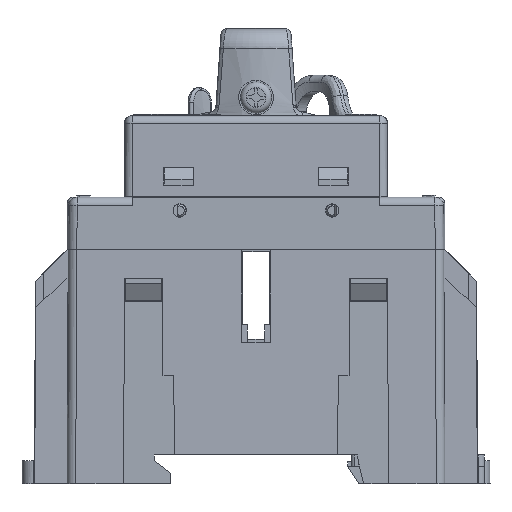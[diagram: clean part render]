
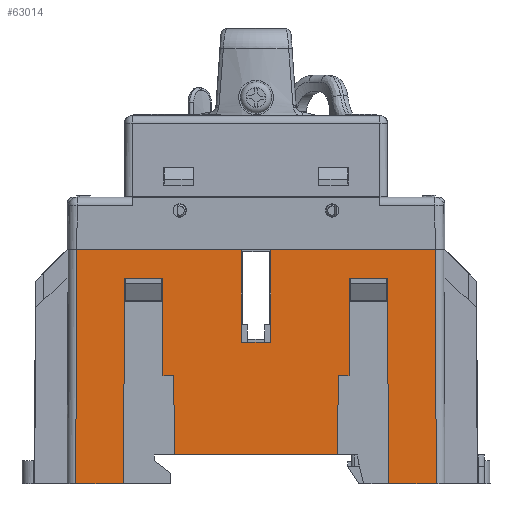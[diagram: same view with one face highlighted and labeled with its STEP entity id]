
A CAD part, left-side view. The second image highlights one B-rep face of the part: STEP entity #63014.
In plain terms, the highlighted planar face has unit normal (-1, 0, 0.005).
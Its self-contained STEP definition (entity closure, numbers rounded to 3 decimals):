
#28095=CARTESIAN_POINT('',(-18.186,-14.147,-1.7));
#28096=VERTEX_POINT('',#28095);
#28103=CARTESIAN_POINT('',(-18.186,14.147,-1.7));
#28104=VERTEX_POINT('',#28103);
#28105=CARTESIAN_POINT('',(-18.186,-14.147,-1.7));
#28106=DIRECTION('',(0.,1.0,0.0));
#28107=VECTOR('',#28106,28.295);
#28108=LINE('',#28105,#28107);
#28109=EDGE_CURVE('',#28096,#28104,#28108,.T.);
#34275=CARTESIAN_POINT('',(-18.026,-16.35,28.9));
#34276=VERTEX_POINT('',#34275);
#34277=CARTESIAN_POINT('',(-18.026,-22.6,28.9));
#34278=VERTEX_POINT('',#34277);
#34279=CARTESIAN_POINT('',(-18.026,-22.6,28.9));
#34280=DIRECTION('',(0.,1.0,0.));
#34281=VECTOR('',#34280,6.25);
#34282=LINE('',#34279,#34281);
#34283=EDGE_CURVE('',#34276,#34278,#34282,.F.);
#34346=CARTESIAN_POINT('',(-18.026,22.6,28.9));
#34347=VERTEX_POINT('',#34346);
#34348=CARTESIAN_POINT('',(-18.026,16.35,28.9));
#34349=VERTEX_POINT('',#34348);
#34350=CARTESIAN_POINT('',(-18.026,16.35,28.9));
#34351=DIRECTION('',(0.,1.0,0.));
#34352=VECTOR('',#34351,6.25);
#34353=LINE('',#34350,#34352);
#34354=EDGE_CURVE('',#34347,#34349,#34353,.F.);
#51665=CARTESIAN_POINT('',(-18.026,-16.2,28.9));
#51666=VERTEX_POINT('',#51665);
#51667=CARTESIAN_POINT('',(-18.026,-16.35,28.9));
#51668=DIRECTION('',(0.,1.0,0.));
#51669=VECTOR('',#51668,0.15);
#51670=LINE('',#51667,#51669);
#51671=EDGE_CURVE('',#51666,#34276,#51670,.F.);
#51704=CARTESIAN_POINT('',(-18.026,-22.75,28.9));
#51705=VERTEX_POINT('',#51704);
#51712=CARTESIAN_POINT('',(-18.026,-22.75,28.9));
#51713=DIRECTION('',(0.,1.0,0.));
#51714=VECTOR('',#51713,0.15);
#51715=LINE('',#51712,#51714);
#51716=EDGE_CURVE('',#34278,#51705,#51715,.F.);
#51769=CARTESIAN_POINT('',(-18.026,16.2,28.9));
#51770=VERTEX_POINT('',#51769);
#51777=CARTESIAN_POINT('',(-18.026,16.2,28.9));
#51778=DIRECTION('',(0.,1.0,0.));
#51779=VECTOR('',#51778,0.15);
#51780=LINE('',#51777,#51779);
#51781=EDGE_CURVE('',#34349,#51770,#51780,.F.);
#51792=CARTESIAN_POINT('',(-18.026,22.75,28.9));
#51793=VERTEX_POINT('',#51792);
#51794=CARTESIAN_POINT('',(-18.026,22.6,28.9));
#51795=DIRECTION('',(0.,1.0,0.));
#51796=VECTOR('',#51795,0.15);
#51797=LINE('',#51794,#51796);
#51798=EDGE_CURVE('',#51793,#34347,#51797,.F.);
#54924=CARTESIAN_POINT('',(-18.212,22.936,-6.7));
#54925=VERTEX_POINT('',#54924);
#54932=CARTESIAN_POINT('',(-18.212,31.212,-6.7));
#54933=VERTEX_POINT('',#54932);
#54934=CARTESIAN_POINT('',(-18.212,22.936,-6.7));
#54935=DIRECTION('',(0.,1.0,0.0));
#54936=VECTOR('',#54935,8.276);
#54937=LINE('',#54934,#54936);
#54938=EDGE_CURVE('',#54933,#54925,#54937,.F.);
#55420=CARTESIAN_POINT('',(-18.212,-31.212,-6.7));
#55421=VERTEX_POINT('',#55420);
#55429=CARTESIAN_POINT('',(-18.212,-22.936,-6.7));
#55430=VERTEX_POINT('',#55429);
#55431=CARTESIAN_POINT('',(-18.212,-31.212,-6.7));
#55432=DIRECTION('',(0.,1.0,0.0));
#55433=VECTOR('',#55432,8.276);
#55434=LINE('',#55431,#55433);
#55435=EDGE_CURVE('',#55421,#55430,#55434,.T.);
#56031=CARTESIAN_POINT('',(-18.,31.,33.8));
#56032=VERTEX_POINT('',#56031);
#56040=CARTESIAN_POINT('',(-18.,2.584,33.8));
#56041=VERTEX_POINT('',#56040);
#56042=CARTESIAN_POINT('',(-18.,2.584,33.8));
#56043=DIRECTION('',(0.,1.0,0.0));
#56044=VECTOR('',#56043,28.416);
#56045=LINE('',#56042,#56044);
#56046=EDGE_CURVE('',#56041,#56032,#56045,.T.);
#62891=CARTESIAN_POINT('',(-18.212,31.212,-6.7));
#62892=DIRECTION('',(0.005,-0.005,1.));
#62893=VECTOR('',#62892,40.501);
#62894=LINE('',#62891,#62893);
#62895=EDGE_CURVE('',#54933,#56032,#62894,.T.);
#62902=CARTESIAN_POINT('',(-18.177,0.,0.));
#62903=DIRECTION('',(-1.,0.,0.005));
#62904=DIRECTION('',(0.005,0.,1.));
#62905=AXIS2_PLACEMENT_3D('',#62902,#62903,#62904);
#62906=PLANE('',#62905);
#62907=ORIENTED_EDGE('',*,*,#62895,.F.);
#62908=ORIENTED_EDGE('',*,*,#54938,.T.);
#62909=CARTESIAN_POINT('',(-18.212,22.936,-6.7));
#62910=DIRECTION('',(0.005,-0.005,1.));
#62911=VECTOR('',#62910,35.601);
#62912=LINE('',#62909,#62911);
#62913=EDGE_CURVE('',#54925,#51793,#62912,.T.);
#62914=ORIENTED_EDGE('',*,*,#62913,.T.);
#62915=ORIENTED_EDGE('',*,*,#51798,.T.);
#62916=ORIENTED_EDGE('',*,*,#34354,.T.);
#62917=ORIENTED_EDGE('',*,*,#51781,.T.);
#62918=CARTESIAN_POINT('',(-18.114,16.112,12.));
#62919=VERTEX_POINT('',#62918);
#62920=CARTESIAN_POINT('',(-18.026,16.2,28.9));
#62921=DIRECTION('',(-0.005,-0.005,-1.));
#62922=VECTOR('',#62921,16.9);
#62923=LINE('',#62920,#62922);
#62924=EDGE_CURVE('',#51770,#62919,#62923,.T.);
#62925=ORIENTED_EDGE('',*,*,#62924,.T.);
#62926=CARTESIAN_POINT('',(-18.114,14.219,12.));
#62927=VERTEX_POINT('',#62926);
#62928=CARTESIAN_POINT('',(-18.114,14.219,12.));
#62929=DIRECTION('',(0.,1.0,0.));
#62930=VECTOR('',#62929,1.892);
#62931=LINE('',#62928,#62930);
#62932=EDGE_CURVE('',#62919,#62927,#62931,.F.);
#62933=ORIENTED_EDGE('',*,*,#62932,.T.);
#62934=CARTESIAN_POINT('',(-18.114,14.219,12.));
#62935=DIRECTION('',(-0.005,-0.005,-1.));
#62936=VECTOR('',#62935,13.7);
#62937=LINE('',#62934,#62936);
#62938=EDGE_CURVE('',#62927,#28104,#62937,.T.);
#62939=ORIENTED_EDGE('',*,*,#62938,.T.);
#62940=ORIENTED_EDGE('',*,*,#28109,.F.);
#62941=CARTESIAN_POINT('',(-18.114,-14.219,12.));
#62942=VERTEX_POINT('',#62941);
#62943=CARTESIAN_POINT('',(-18.186,-14.147,-1.7));
#62944=DIRECTION('',(0.005,-0.005,1.));
#62945=VECTOR('',#62944,13.7);
#62946=LINE('',#62943,#62945);
#62947=EDGE_CURVE('',#28096,#62942,#62946,.T.);
#62948=ORIENTED_EDGE('',*,*,#62947,.T.);
#62949=CARTESIAN_POINT('',(-18.114,-16.112,12.));
#62950=VERTEX_POINT('',#62949);
#62951=CARTESIAN_POINT('',(-18.114,-16.112,12.));
#62952=DIRECTION('',(0.,1.0,0.));
#62953=VECTOR('',#62952,1.892);
#62954=LINE('',#62951,#62953);
#62955=EDGE_CURVE('',#62942,#62950,#62954,.F.);
#62956=ORIENTED_EDGE('',*,*,#62955,.T.);
#62957=CARTESIAN_POINT('',(-18.114,-16.112,12.));
#62958=DIRECTION('',(0.005,-0.005,1.));
#62959=VECTOR('',#62958,16.9);
#62960=LINE('',#62957,#62959);
#62961=EDGE_CURVE('',#62950,#51666,#62960,.T.);
#62962=ORIENTED_EDGE('',*,*,#62961,.T.);
#62963=ORIENTED_EDGE('',*,*,#51671,.T.);
#62964=ORIENTED_EDGE('',*,*,#34283,.T.);
#62965=ORIENTED_EDGE('',*,*,#51716,.T.);
#62966=CARTESIAN_POINT('',(-18.026,-22.75,28.9));
#62967=DIRECTION('',(-0.005,-0.005,-1.));
#62968=VECTOR('',#62967,35.601);
#62969=LINE('',#62966,#62968);
#62970=EDGE_CURVE('',#51705,#55430,#62969,.T.);
#62971=ORIENTED_EDGE('',*,*,#62970,.T.);
#62972=ORIENTED_EDGE('',*,*,#55435,.F.);
#62973=CARTESIAN_POINT('',(-18.,-31.,33.8));
#62974=VERTEX_POINT('',#62973);
#62975=CARTESIAN_POINT('',(-18.,-31.,33.8));
#62976=DIRECTION('',(-0.005,-0.005,-1.));
#62977=VECTOR('',#62976,40.501);
#62978=LINE('',#62975,#62977);
#62979=EDGE_CURVE('',#62974,#55421,#62978,.T.);
#62980=ORIENTED_EDGE('',*,*,#62979,.F.);
#62981=CARTESIAN_POINT('',(-18.,-2.584,33.8));
#62982=VERTEX_POINT('',#62981);
#62983=CARTESIAN_POINT('',(-18.,-2.584,33.8));
#62984=DIRECTION('',(0.,-1.0,0.0));
#62985=VECTOR('',#62984,28.416);
#62986=LINE('',#62983,#62985);
#62987=EDGE_CURVE('',#62982,#62974,#62986,.T.);
#62988=ORIENTED_EDGE('',*,*,#62987,.F.);
#62989=CARTESIAN_POINT('',(-18.084,-2.5,17.8));
#62990=VERTEX_POINT('',#62989);
#62991=CARTESIAN_POINT('',(-18.084,-2.5,17.8));
#62992=DIRECTION('',(0.005,-0.005,1.));
#62993=VECTOR('',#62992,16.);
#62994=LINE('',#62991,#62993);
#62995=EDGE_CURVE('',#62982,#62990,#62994,.F.);
#62996=ORIENTED_EDGE('',*,*,#62995,.T.);
#62997=CARTESIAN_POINT('',(-18.084,2.5,17.8));
#62998=VERTEX_POINT('',#62997);
#62999=CARTESIAN_POINT('',(-18.084,-2.5,17.8));
#63000=DIRECTION('',(0.,1.0,0.0));
#63001=VECTOR('',#63000,5.);
#63002=LINE('',#62999,#63001);
#63003=EDGE_CURVE('',#62990,#62998,#63002,.T.);
#63004=ORIENTED_EDGE('',*,*,#63003,.T.);
#63005=CARTESIAN_POINT('',(-18.,2.584,33.8));
#63006=DIRECTION('',(-0.005,-0.005,-1.));
#63007=VECTOR('',#63006,16.);
#63008=LINE('',#63005,#63007);
#63009=EDGE_CURVE('',#62998,#56041,#63008,.F.);
#63010=ORIENTED_EDGE('',*,*,#63009,.T.);
#63011=ORIENTED_EDGE('',*,*,#56046,.T.);
#63012=EDGE_LOOP('',(#62907,#62908,#62914,#62915,#62916,#62917,#62925,#62933,#62939,#62940,#62948,#62956,#62962,#62963,#62964,#62965,#62971,#62972,#62980,#62988,#62996,#63004,#63010,#63011));
#63013=FACE_OUTER_BOUND('',#63012,.T.);
#63014=ADVANCED_FACE('',(#63013),#62906,.T.);
